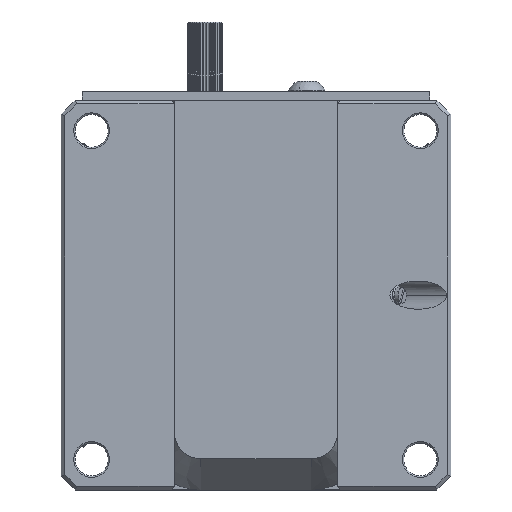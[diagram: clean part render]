
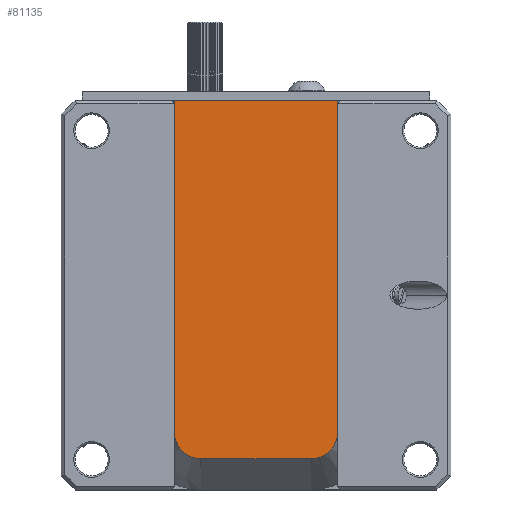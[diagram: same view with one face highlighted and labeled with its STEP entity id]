
A CAD part, top view. The second image highlights one B-rep face of the part: STEP entity #81135.
In plain terms, the highlighted planar face has unit normal (0, 0, 1).
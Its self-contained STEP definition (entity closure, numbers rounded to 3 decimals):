
#75063=DIRECTION('',(1.,0.,0.));
#75064=VECTOR('',#75063,29.769);
#75065=CARTESIAN_POINT('',(-16.746,31.409,
11.74));
#75066=LINE('',#75065,#75064);
#75103=CARTESIAN_POINT('',(8.248,-29.221,
11.74));
#75104=DIRECTION('',(0.,0.,1.));
#75105=DIRECTION('',(0.,-1.,0.));
#75106=AXIS2_PLACEMENT_3D('',#75103,#75104,#75105);
#75108=CARTESIAN_POINT('',(-11.971,-29.221,
11.74));
#75109=DIRECTION('',(0.,0.,1.));
#75110=DIRECTION('',(-1.,0.,0.));
#75111=AXIS2_PLACEMENT_3D('',#75108,#75109,#75110);
#75117=DIRECTION('',(0.,1.,0.));
#75118=VECTOR('',#75117,60.63);
#75119=CARTESIAN_POINT('',(-16.746,-29.221,
11.74));
#75120=LINE('',#75119,#75118);
#75138=DIRECTION('',(-1.,0.,0.));
#75139=VECTOR('',#75138,20.218);
#75140=CARTESIAN_POINT('',(8.248,-33.996,
11.74));
#75141=LINE('',#75140,#75139);
#75155=DIRECTION('',(0.,-1.,0.));
#75156=VECTOR('',#75155,60.63);
#75157=CARTESIAN_POINT('',(13.023,31.409,11.74));
#75158=LINE('',#75157,#75156);
#77385=CARTESIAN_POINT('',(-16.746,31.409,
11.74));
#77386=CARTESIAN_POINT('',(13.023,31.409,11.74));
#77387=VERTEX_POINT('',#77385);
#77388=VERTEX_POINT('',#77386);
#77397=CARTESIAN_POINT('',(13.023,-29.221,
11.74));
#77398=VERTEX_POINT('',#77397);
#77411=CARTESIAN_POINT('',(8.248,-33.996,
11.74));
#77412=VERTEX_POINT('',#77411);
#77413=CARTESIAN_POINT('',(-11.97,-33.996,
11.74));
#77414=VERTEX_POINT('',#77413);
#77415=CARTESIAN_POINT('',(-16.746,-29.221,
11.74));
#77416=VERTEX_POINT('',#77415);
#81117=CARTESIAN_POINT('',(8.248,-29.221,
11.74));
#81118=DIRECTION('',(0.,0.,1.));
#81119=DIRECTION('',(1.,0.,0.));
#81120=AXIS2_PLACEMENT_3D('',#81117,#81118,#81119);
#81121=PLANE('',#81120);
#81123=ORIENTED_EDGE('',*,*,#81122,.T.);
#81124=ORIENTED_EDGE('',*,*,#81092,.T.);
#81126=ORIENTED_EDGE('',*,*,#81125,.T.);
#81128=ORIENTED_EDGE('',*,*,#81127,.F.);
#81130=ORIENTED_EDGE('',*,*,#81129,.T.);
#81132=ORIENTED_EDGE('',*,*,#81131,.F.);
#81133=EDGE_LOOP('',(#81123,#81124,#81126,#81128,#81130,#81132));
#81134=FACE_OUTER_BOUND('',#81133,.F.);
#81135=ADVANCED_FACE('',(#81134),#81121,.T.);
#75107=CIRCLE('',#75106,4.775);
#75112=CIRCLE('',#75111,4.775);
#81092=EDGE_CURVE('',#77387,#77388,#75066,.T.);
#81122=EDGE_CURVE('',#77416,#77387,#75120,.T.);
#81125=EDGE_CURVE('',#77388,#77398,#75158,.T.);
#81127=EDGE_CURVE('',#77412,#77398,#75107,.T.);
#81129=EDGE_CURVE('',#77412,#77414,#75141,.T.);
#81131=EDGE_CURVE('',#77416,#77414,#75112,.T.);
